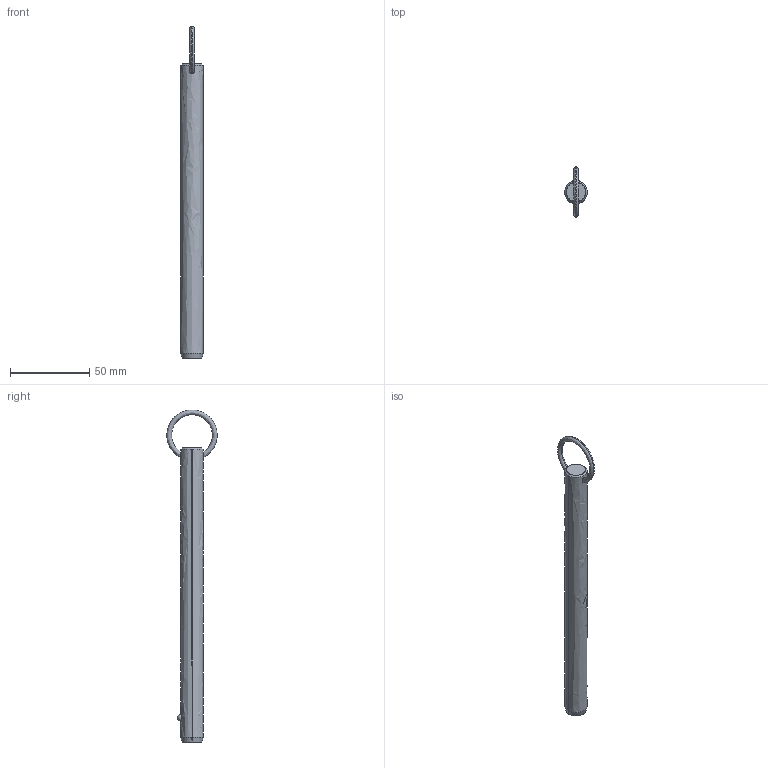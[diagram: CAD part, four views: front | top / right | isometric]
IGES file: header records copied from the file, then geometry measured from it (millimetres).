
Start section: SolidWorks IGES file using analytic representation for surfaces
Global section: file name: C:\Users\liam_\OneDrive\Documents\WORK\Work for WixRoyd\Job Files\J-00019 - Matt Davis CAD Checking\04. CAD Drawings\automotion20190605\P1250.2_v2\P1250.2_v2_20190729_IGES\P1250.056-630.igs; native system: SolidWorks 2017; preprocessor: SolidWorks 2017; author: liam_; date: 190729.232744; units: millimetre
Bounding box: 14.2 x 31.69 x 209.1 mm (x, y, z)
Surface area: 9232.2 mm2 (no closed solid volume)
Topology: 0 solids, 0 shells, 12 faces, 285 edges, 283 vertices
Faces by surface type: revolution 8, bspline 4
